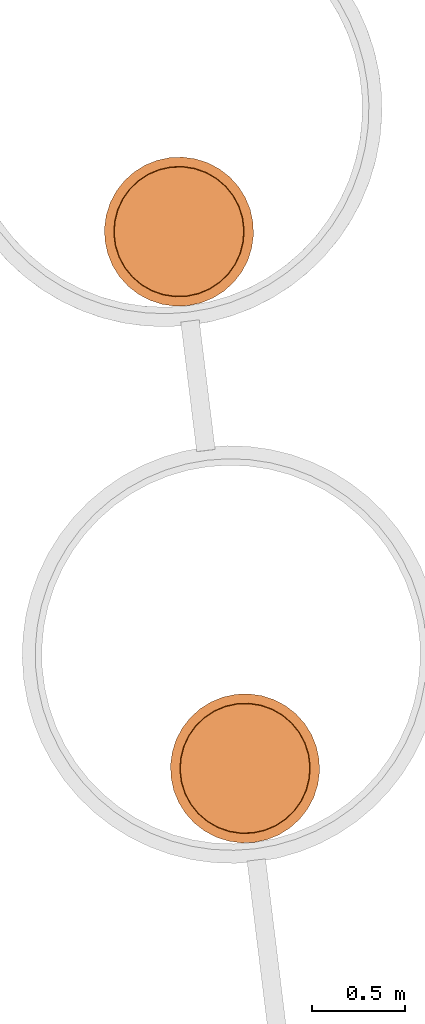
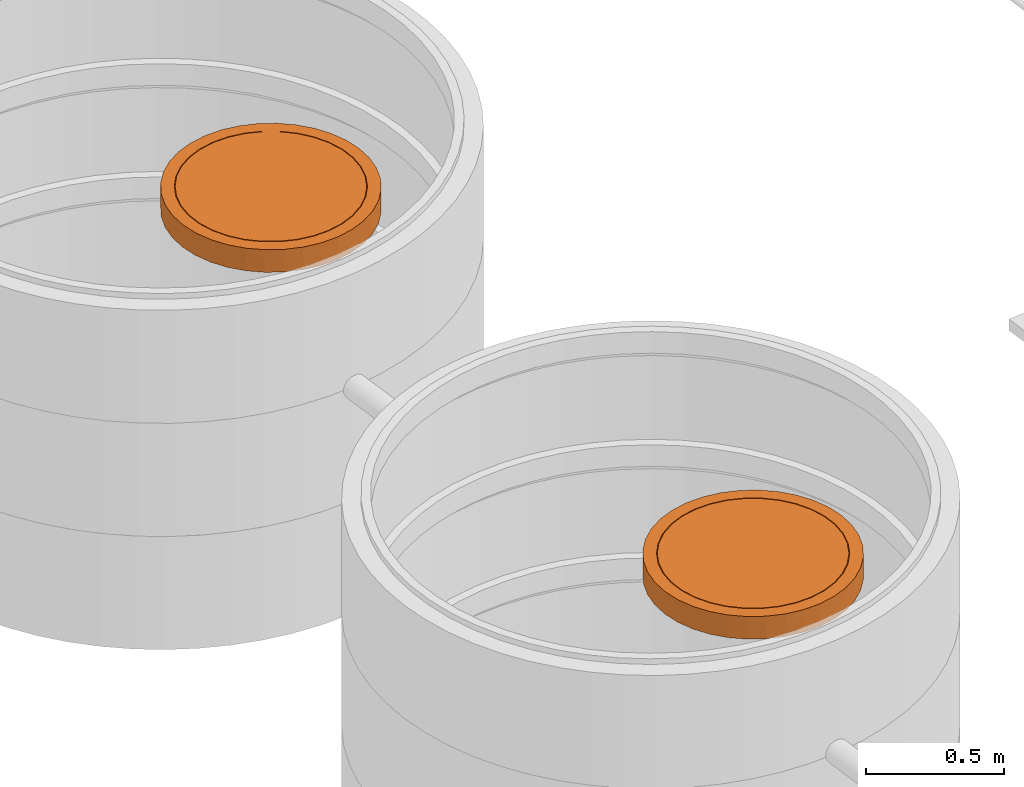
# One storey, part 97 of 97: 2 proxies.
"""IFC2X3 building model written with IfcOpenShell, lengths in centimetres."""

from ifc_helpers import new_model, entity, si_unit, converted_unit, derived_unit, direction, frame, origin, place, context, subcontext, project, spatial, faceted_brep, source, transform, mapped, material, type_object, type_shapes, element, save


model = new_model("IFC2X3")

# Units and contexts
model_context = context("Model", 3, precision=0.001, world=origin(), true_north=direction((6.12303176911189e-17, 1.0)))
body_context = subcontext(model_context, "Body", "Model", "MODEL_VIEW")
ifc_project = project(units=[si_unit("LENGTHUNIT", "METRE", prefix="CENTI"), si_unit("AREAUNIT", "SQUARE_METRE"), si_unit("VOLUMEUNIT", "CUBIC_METRE"), converted_unit("PLANEANGLEUNIT", "DEGREE", entity("IfcRatioMeasure", 0.0174532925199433), si_unit("PLANEANGLEUNIT", "RADIAN"), dimensions=[0, 0, 0, 0, 0, 0, 0]), si_unit("MASSUNIT", "GRAM", prefix="KILO"), derived_unit("MASSDENSITYUNIT", [(si_unit("MASSUNIT", "GRAM", prefix="KILO"), 1), (si_unit("LENGTHUNIT", "METRE"), -3)]), derived_unit("MOMENTOFINERTIAUNIT", [(si_unit("LENGTHUNIT", "METRE"), 4)]), si_unit("TIMEUNIT", "SECOND"), si_unit("FREQUENCYUNIT", "HERTZ"), si_unit("THERMODYNAMICTEMPERATUREUNIT", "DEGREE_CELSIUS"), derived_unit("THERMALTRANSMITTANCEUNIT", [(si_unit("MASSUNIT", "GRAM", prefix="KILO"), 1), (si_unit("THERMODYNAMICTEMPERATUREUNIT", "KELVIN"), -1), (si_unit("TIMEUNIT", "SECOND"), -3)]), derived_unit("VOLUMETRICFLOWRATEUNIT", [(si_unit("LENGTHUNIT", "METRE"), 3), (si_unit("TIMEUNIT", "SECOND"), -1)]), si_unit("ELECTRICCURRENTUNIT", "AMPERE"), si_unit("ELECTRICVOLTAGEUNIT", "VOLT"), si_unit("POWERUNIT", "WATT"), si_unit("FORCEUNIT", "NEWTON", prefix="KILO"), si_unit("ILLUMINANCEUNIT", "LUX"), si_unit("LUMINOUSFLUXUNIT", "LUMEN"), si_unit("LUMINOUSINTENSITYUNIT", "CANDELA"), derived_unit("USERDEFINED", [(si_unit("MASSUNIT", "GRAM", prefix="KILO"), -1), (si_unit("LENGTHUNIT", "METRE"), -2), (si_unit("TIMEUNIT", "SECOND"), 3), (si_unit("LUMINOUSFLUXUNIT", "LUMEN"), 1)]), derived_unit("LINEARVELOCITYUNIT", [(si_unit("LENGTHUNIT", "METRE"), 1), (si_unit("TIMEUNIT", "SECOND"), -1)]), si_unit("PRESSUREUNIT", "PASCAL"), derived_unit("USERDEFINED", [(si_unit("LENGTHUNIT", "METRE"), -2), (si_unit("MASSUNIT", "GRAM", prefix="KILO"), 1), (si_unit("TIMEUNIT", "SECOND"), -2)]), derived_unit("LINEARFORCEUNIT", [(si_unit("MASSUNIT", "GRAM", prefix="KILO"), 1), (si_unit("LENGTHUNIT", "METRE"), 1), (si_unit("TIMEUNIT", "SECOND"), -2), (si_unit("LENGTHUNIT", "METRE"), -1)]), derived_unit("PLANARFORCEUNIT", [(si_unit("MASSUNIT", "GRAM", prefix="KILO"), 1), (si_unit("LENGTHUNIT", "METRE"), 1), (si_unit("TIMEUNIT", "SECOND"), -2), (si_unit("LENGTHUNIT", "METRE"), -2)])], contexts=[model_context])

# Site, building, storey
site_placement = place(None, origin())
site = spatial("IfcSite", under=ifc_project, at=site_placement, Name="Default", CompositionType="ELEMENT")
building_placement = place(site_placement, origin())
building = spatial("IfcBuilding", under=site, at=building_placement, Name="HIDROSSANITÁRIO", CompositionType="ELEMENT")
storey_placement = place(building_placement, frame((0.0, 0.0, -260.0)))
storey = spatial("IfcBuildingStorey", under=building, at=storey_placement, Name="TÉRREO-HID", CompositionType="ELEMENT", Elevation=-260.0)

# Proxies
ifc_material = material(Name=".CONCRETO")
building_element_proxy_type = type_object("IfcBuildingElementProxyType", Name="Tampa Fossa_Rodrigo MEP:Tampa Fossa", PredefinedType="NOTDEFINED", material=ifc_material)
shared_shape = source(origin(), body_context, "Body", "Brep", [
    faceted_brep([(-59.3923101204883, 6.9459271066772, 10.0), (-59.3923101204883, 6.9459271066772, 0.0), (-60.0, 0.0, 0.0), (-60.0, 0.0, 10.0), (-57.5877048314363, 13.6808057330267, 10.0), (-57.5877048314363, 13.6808057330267, 0.0), (-54.6410161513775, 20.0, 10.0), (-54.6410161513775, 20.0, 0.0), (-50.6417777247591, 25.7115043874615, 0.0), (-50.6417777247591, 25.7115043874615, 10.0), (-45.7115043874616, 30.6417777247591, 10.0), (-45.7115043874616, 30.6417777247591, 0.0), (-40.0, 34.6410161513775, 10.0), (-33.6808057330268, 37.5877048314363, 10.0), (-33.6808057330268, 37.5877048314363, 0.0), (-40.0, 34.6410161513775, 0.0), (-26.9459271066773, 39.3923101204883, 0.0), (-26.9459271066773, 39.3923101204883, 10.0), (-20.0, 40.0, 0.0), (-20.0, 40.0, 10.0), (0.0, 34.6410161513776, 0.0), (-6.31919426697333, 37.5877048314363, 0.0), (-6.31919426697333, 37.5877048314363, 10.0), (0.0, 34.6410161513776, 10.0), (-13.0540728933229, 39.3923101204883, 0.0), (-13.0540728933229, 39.3923101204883, 10.0), (5.71150438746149, 30.6417777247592, 0.0), (5.71150438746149, 30.6417777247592, 10.0), (17.5877048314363, 13.6808057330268, 10.0), (19.3923101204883, 6.94592710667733, 10.0), (19.3923101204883, 6.94592710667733, 0.0), (17.5877048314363, 13.6808057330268, 0.0), (14.6410161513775, 20.0, 0.0), (10.641777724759, 25.7115043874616, 0.0), (10.641777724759, 25.7115043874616, 10.0), (14.6410161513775, 20.0, 10.0), (20.0, 0.0, 0.0), (20.0, 0.0, 10.0), (19.3923101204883, -6.94592710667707, 10.0), (19.3923101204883, -6.94592710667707, 0.0), (17.5877048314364, -13.6808057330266, 10.0), (17.5877048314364, -13.6808057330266, 0.0), (14.6410161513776, -20.0, 10.0), (14.6410161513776, -20.0, 0.0), (-6.3191942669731, -37.5877048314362, 0.0), (0.0, -34.6410161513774, 0.0), (0.0, -34.6410161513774, 10.0), (-6.3191942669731, -37.5877048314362, 10.0), (5.71150438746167, -30.641777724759, 10.0), (5.71150438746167, -30.641777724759, 0.0), (-13.0540728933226, -39.3923101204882, 10.0), (-13.0540728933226, -39.3923101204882, 0.0), (10.6417777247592, -25.7115043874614, 10.0), (10.6417777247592, -25.7115043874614, 0.0), (-20.0, -40.0, 10.0), (-20.0, -40.0, 0.0), (-40.0, -34.6410161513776, 0.0), (-33.6808057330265, -37.5877048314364, 0.0), (-33.6808057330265, -37.5877048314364, 10.0), (-40.0, -34.6410161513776, 10.0), (-26.945927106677, -39.3923101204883, 0.0), (-26.945927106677, -39.3923101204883, 10.0), (-45.7115043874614, -30.6417777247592, 0.0), (-45.7115043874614, -30.6417777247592, 10.0), (-57.5877048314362, -13.680805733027, 10.0), (-59.3923101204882, -6.94592710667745, 10.0), (-59.3923101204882, -6.94592710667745, 0.0), (-57.5877048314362, -13.680805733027, 0.0), (-54.6410161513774, -20.0, 0.0), (-50.6417777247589, -25.7115043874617, 0.0), (-50.6417777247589, -25.7115043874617, 10.0), (-54.6410161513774, -20.0, 10.0), (9.42355841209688, 5.85270966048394, 0.0), (10.0, 0.0, 0.0), (7.71638597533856, 11.4805029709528, 0.0), (4.9440883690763, 16.6671069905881, 0.0), (1.21320343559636, 21.2132034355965, 0.0), (-3.332893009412, 24.9440883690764, 0.0), (-8.51949702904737, 27.7163859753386, 0.0), (-14.1472903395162, 29.4235584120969, 0.0), (-20.0, 30.0, 0.0), (-25.8527096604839, 29.4235584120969, 0.0), (-31.4805029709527, 27.7163859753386, 0.0), (-36.6671069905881, 24.9440883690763, 0.0), (-41.2132034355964, 21.2132034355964, 0.0), (-44.9440883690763, 16.667106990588, 0.0), (-47.7163859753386, 11.4805029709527, 0.0), (-49.4235584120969, 5.85270966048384, 0.0), (-50.0, 0.0, 0.0), (-49.4235584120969, -5.85270966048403, 0.0), (-47.7163859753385, -11.4805029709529, 0.0), (-44.9440883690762, -16.6671069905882, 0.0), (-41.2132034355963, -21.2132034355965, 0.0), (-36.6671069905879, -24.9440883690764, 0.0), (-31.4805029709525, -27.7163859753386, 0.0), (-25.8527096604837, -29.4235584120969, 0.0), (-20.0, -30.0, 0.0), (-14.147290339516, -29.4235584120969, 0.0), (-8.51949702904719, -27.7163859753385, 0.0), (-3.33289300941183, -24.9440883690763, 0.0), (1.2132034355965, -21.2132034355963, 0.0), (4.94408836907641, -16.667106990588, 0.0), (7.71638597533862, -11.4805029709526, 0.0), (9.42355841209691, -5.85270966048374, 0.0), (-50.0, 0.0, 5.0), (-49.4235584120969, 5.85270966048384, 5.0), (-47.7163859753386, 11.4805029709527, 5.0), (-44.9440883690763, 16.667106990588, 5.0), (-36.6671069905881, 24.9440883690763, 5.0), (-41.2132034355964, 21.2132034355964, 5.0), (-31.4805029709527, 27.7163859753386, 5.0), (-25.8527096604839, 29.4235584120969, 5.0), (-20.0, 30.0, 5.0), (-3.332893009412, 24.9440883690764, 5.0), (-8.51949702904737, 27.7163859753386, 5.0), (-14.1472903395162, 29.4235584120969, 5.0), (1.21320343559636, 21.2132034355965, 5.0), (9.42355841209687, 5.85270966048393, 5.0), (7.71638597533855, 11.4805029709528, 5.0), (4.94408836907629, 16.6671069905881, 5.0), (10.0, 0.0, 5.0), (9.42355841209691, -5.85270966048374, 5.0), (7.71638597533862, -11.4805029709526, 5.0), (4.9440883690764, -16.667106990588, 5.0), (-3.33289300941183, -24.9440883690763, 5.0), (1.2132034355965, -21.2132034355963, 5.0), (-8.5194970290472, -27.7163859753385, 5.0), (-14.147290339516, -29.4235584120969, 5.0), (-20.0, -30.0, 5.0), (-36.667106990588, -24.9440883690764, 5.0), (-31.4805029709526, -27.7163859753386, 5.0), (-25.8527096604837, -29.4235584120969, 5.0), (-41.2132034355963, -21.2132034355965, 5.0), (-49.4235584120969, -5.85270966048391, 5.0), (-47.7163859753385, -11.4805029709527, 5.0), (-44.9440883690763, -16.6671069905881, 5.0), (14.4040584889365, 6.43123312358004, 5.0), (15.0, 0.0, 5.0), (12.6365280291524, 12.6434583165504, 5.0), (9.75759975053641, 18.4251257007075, 5.0), (5.86531210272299, 23.5793475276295, 5.0), (1.09221227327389, 27.9306029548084, 5.0), (-4.39915754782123, 31.3307151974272, 5.0), (-10.4217953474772, 33.6638975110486, 5.0), (-16.7706074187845, 34.8506961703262, 5.0), (-23.2293925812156, 34.8506961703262, 5.0), (-29.5782046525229, 33.6638975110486, 5.0), (-35.6008424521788, 31.3307151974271, 5.0), (-41.092212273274, 27.9306029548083, 5.0), (-45.865312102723, 23.5793475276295, 5.0), (-49.7575997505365, 18.4251257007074, 5.0), (-52.6365280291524, 12.6434583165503, 5.0), (-54.4040584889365, 6.43123312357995, 5.0), (-55.0, 0.0, 5.0), (-54.4040584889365, -6.43123312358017, 5.0), (-52.6365280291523, -12.6434583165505, 5.0), (-49.7575997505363, -18.4251257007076, 5.0), (-45.8653121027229, -23.5793475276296, 5.0), (-41.0922122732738, -27.9306029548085, 5.0), (-35.6008424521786, -31.3307151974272, 5.0), (-29.5782046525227, -33.6638975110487, 5.0), (-23.2293925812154, -34.8506961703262, 5.0), (-16.7706074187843, -34.8506961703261, 5.0), (-10.4217953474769, -33.6638975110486, 5.0), (-4.39915754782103, -31.3307151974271, 5.0), (1.09221227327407, -27.9306029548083, 5.0), (5.86531210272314, -23.5793475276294, 5.0), (9.75759975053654, -18.4251257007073, 5.0), (12.6365280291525, -12.6434583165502, 5.0), (14.4040584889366, -6.43123312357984, 5.0), (-55.0, 0.0, 10.0), (-54.4040584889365, 6.43123312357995, 10.0), (-52.6365280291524, 12.6434583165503, 10.0), (-49.7575997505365, 18.4251257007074, 10.0), (-41.092212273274, 27.9306029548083, 10.0), (-45.865312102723, 23.5793475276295, 10.0), (-23.2293925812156, 34.8506961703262, 10.0), (-29.5782046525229, 33.6638975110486, 10.0), (-35.6008424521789, 31.3307151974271, 10.0), (-16.7706074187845, 34.8506961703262, 10.0), (-4.39915754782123, 31.3307151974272, 10.0), (-10.4217953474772, 33.6638975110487, 10.0), (1.0922122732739, 27.9306029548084, 10.0), (14.4040584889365, 6.43123312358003, 10.0), (12.6365280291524, 12.6434583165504, 10.0), (9.75759975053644, 18.4251257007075, 10.0), (5.865312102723, 23.5793475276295, 10.0), (15.0, 0.0, 10.0), (14.4040584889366, -6.43123312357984, 10.0), (12.6365280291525, -12.6434583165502, 10.0), (9.75759975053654, -18.4251257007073, 10.0), (5.86531210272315, -23.5793475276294, 10.0), (-16.7706074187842, -34.8506961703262, 10.0), (-10.4217953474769, -33.6638975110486, 10.0), (-4.39915754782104, -31.3307151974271, 10.0), (1.09221227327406, -27.9306029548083, 10.0), (-23.2293925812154, -34.8506961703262, 10.0), (-35.6008424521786, -31.3307151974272, 10.0), (-29.5782046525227, -33.6638975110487, 10.0), (-41.0922122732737, -27.9306029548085, 10.0), (-54.4040584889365, -6.43123312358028, 10.0), (-52.6365280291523, -12.6434583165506, 10.0), (-49.7575997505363, -18.4251257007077, 10.0), (-45.8653121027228, -23.5793475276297, 10.0)], [[[0, 1, 2, 3]], [[1, 0, 4, 5]], [[4, 6, 7, 5]], [[8, 9, 10, 11]], [[12, 13, 14, 15]], [[10, 12, 15, 11]], [[6, 9, 8, 7]], [[16, 14, 13, 17]], [[18, 16, 17, 19]], [[20, 21, 22, 23]], [[21, 24, 25, 22]], [[26, 20, 23, 27]], [[28, 29, 30, 31]], [[32, 33, 34, 35]], [[31, 32, 35, 28]], [[27, 34, 33, 26]], [[36, 30, 29, 37]], [[19, 25, 24, 18]], [[38, 39, 36, 37]], [[39, 38, 40, 41]], [[40, 42, 43, 41]], [[44, 45, 46, 47]], [[48, 46, 45, 49]], [[47, 50, 51, 44]], [[42, 52, 53, 43]], [[53, 52, 48, 49]], [[50, 54, 55, 51]], [[56, 57, 58, 59]], [[57, 60, 61, 58]], [[62, 56, 59, 63]], [[64, 65, 66, 67]], [[68, 69, 70, 71]], [[67, 68, 71, 64]], [[63, 70, 69, 62]], [[2, 66, 65, 3]], [[54, 61, 60, 55]], [[72, 31, 30]], [[73, 72, 30]], [[72, 74, 31]], [[74, 32, 31]], [[74, 75, 32]], [[32, 75, 33]], [[33, 75, 76]], [[76, 26, 33]], [[26, 76, 77]], [[20, 26, 77]], [[77, 78, 20]], [[78, 21, 20]], [[78, 79, 21]], [[79, 24, 21]], [[24, 79, 80]], [[24, 80, 18]], [[18, 80, 16]], [[16, 80, 81]], [[16, 81, 14]], [[81, 82, 14]], [[15, 14, 82]], [[15, 82, 83]], [[15, 83, 11]], [[84, 11, 83]], [[11, 84, 8]], [[8, 84, 85]], [[8, 85, 7]], [[86, 7, 85]], [[5, 7, 86]], [[86, 87, 5]], [[87, 1, 5]], [[87, 88, 1]], [[88, 2, 1]], [[88, 66, 2]], [[88, 89, 66]], [[66, 89, 67]], [[89, 90, 67]], [[67, 90, 68]], [[91, 68, 90]], [[69, 68, 91]], [[92, 69, 91]], [[92, 62, 69]], [[92, 93, 62]], [[62, 93, 56]], [[56, 93, 94]], [[56, 94, 57]], [[57, 94, 95]], [[95, 60, 57]], [[60, 95, 96]], [[60, 96, 55]], [[51, 55, 96]], [[96, 97, 51]], [[44, 51, 97]], [[97, 98, 44]], [[44, 98, 45]], [[45, 98, 99]], [[49, 45, 99]], [[100, 49, 99]], [[49, 100, 53]], [[53, 100, 101]], [[101, 43, 53]], [[101, 102, 43]], [[102, 41, 43]], [[102, 103, 41]], [[39, 41, 103]], [[103, 73, 39]], [[73, 36, 39]], [[30, 36, 73]], [[104, 88, 87, 105]], [[106, 105, 87, 86]], [[86, 85, 107, 106]], [[108, 109, 84, 83]], [[110, 108, 83, 82]], [[85, 84, 109, 107]], [[110, 82, 81, 111]], [[81, 80, 112, 111]], [[77, 113, 114, 78]], [[115, 79, 78, 114]], [[113, 77, 76, 116]], [[72, 117, 118, 74]], [[118, 119, 75, 74]], [[116, 76, 75, 119]], [[120, 117, 72, 73]], [[79, 115, 112, 80]], [[120, 73, 103, 121]], [[122, 121, 103, 102]], [[102, 101, 123, 122]], [[124, 125, 100, 99]], [[126, 124, 99, 98]], [[101, 100, 125, 123]], [[126, 98, 97, 127]], [[97, 96, 128, 127]], [[93, 129, 130, 94]], [[131, 95, 94, 130]], [[129, 93, 92, 132]], [[89, 133, 134, 90]], [[135, 91, 90, 134]], [[135, 132, 92, 91]], [[104, 133, 89, 88]], [[95, 131, 128, 96]], [[136, 120, 137]], [[117, 120, 136]], [[136, 138, 117]], [[117, 138, 118]], [[138, 139, 118]], [[118, 139, 119]], [[140, 119, 139]], [[119, 140, 116]], [[141, 116, 140]], [[116, 141, 113]], [[142, 113, 141]], [[113, 142, 114]], [[142, 143, 114]], [[143, 115, 114]], [[144, 115, 143]], [[144, 112, 115]], [[144, 145, 112]], [[145, 111, 112]], [[111, 145, 146]], [[146, 110, 111]], [[146, 147, 110]], [[110, 147, 108]], [[148, 108, 147]], [[108, 148, 109]], [[149, 109, 148]], [[107, 109, 149]], [[150, 107, 149]], [[107, 150, 106]], [[106, 150, 151]], [[151, 105, 106]], [[151, 152, 105]], [[152, 104, 105]], [[152, 153, 104]], [[153, 154, 104]], [[154, 133, 104]], [[155, 133, 154]], [[155, 134, 133]], [[156, 134, 155]], [[134, 156, 135]], [[135, 156, 157]], [[135, 157, 132]], [[157, 158, 132]], [[158, 129, 132]], [[129, 158, 159]], [[130, 129, 159]], [[160, 130, 159]], [[131, 130, 160]], [[131, 160, 161]], [[161, 128, 131]], [[162, 128, 161]], [[127, 128, 162]], [[127, 162, 163]], [[163, 126, 127]], [[164, 126, 163]], [[124, 126, 164]], [[124, 164, 165]], [[124, 165, 125]], [[166, 125, 165]], [[125, 166, 123]], [[167, 123, 166]], [[167, 122, 123]], [[167, 168, 122]], [[122, 168, 121]], [[121, 168, 169]], [[121, 169, 120]], [[169, 137, 120]], [[170, 153, 152, 171]], [[172, 171, 152, 151]], [[151, 150, 173, 172]], [[149, 148, 174, 175]], [[146, 145, 176, 177]], [[174, 148, 147, 178]], [[173, 150, 149, 175]], [[177, 178, 147, 146]], [[145, 144, 179, 176]], [[180, 181, 143, 142]], [[181, 179, 144, 143]], [[182, 180, 142, 141]], [[136, 183, 184, 138]], [[185, 186, 140, 139]], [[185, 139, 138, 184]], [[140, 186, 182, 141]], [[183, 136, 137, 187]], [[187, 137, 169, 188]], [[169, 168, 189, 188]], [[168, 167, 190, 189]], [[190, 167, 166, 191]], [[162, 192, 193, 163]], [[164, 163, 193, 194]], [[195, 191, 166, 165]], [[194, 195, 165, 164]], [[162, 161, 196, 192]], [[159, 197, 198, 160]], [[196, 161, 160, 198]], [[197, 159, 158, 199]], [[154, 200, 201, 155]], [[202, 203, 157, 156]], [[201, 202, 156, 155]], [[203, 199, 158, 157]], [[170, 200, 154, 153]], [[29, 187, 37]], [[183, 187, 29]], [[29, 28, 183]], [[183, 28, 184]], [[28, 35, 184]], [[184, 35, 185]], [[185, 35, 34]], [[186, 185, 34]], [[34, 27, 186]], [[182, 186, 27]], [[182, 27, 23]], [[23, 180, 182]], [[23, 22, 180]], [[22, 181, 180]], [[22, 25, 181]], [[179, 181, 25]], [[19, 179, 25]], [[179, 19, 176]], [[19, 17, 176]], [[17, 177, 176]], [[13, 177, 17]], [[13, 178, 177]], [[13, 12, 178]], [[178, 12, 174]], [[10, 174, 12]], [[174, 10, 175]], [[9, 175, 10]], [[173, 175, 9]], [[6, 173, 9]], [[173, 6, 172]], [[172, 6, 4]], [[4, 171, 172]], [[4, 0, 171]], [[0, 170, 171]], [[0, 3, 170]], [[3, 65, 170]], [[65, 200, 170]], [[64, 200, 65]], [[201, 200, 64]], [[71, 201, 64]], [[202, 201, 71]], [[70, 202, 71]], [[202, 70, 203]], [[63, 203, 70]], [[203, 63, 199]], [[63, 59, 199]], [[197, 199, 59]], [[197, 59, 58]], [[198, 197, 58]], [[198, 58, 61]], [[61, 196, 198]], [[196, 61, 54]], [[192, 196, 54]], [[192, 54, 50]], [[50, 193, 192]], [[193, 50, 47]], [[47, 194, 193]], [[46, 194, 47]], [[195, 194, 46]], [[195, 46, 48]], [[195, 48, 191]], [[52, 191, 48]], [[191, 52, 190]], [[42, 190, 52]], [[42, 189, 190]], [[42, 40, 189]], [[189, 40, 188]], [[188, 40, 38]], [[188, 38, 187]], [[38, 37, 187]]]),
    faceted_brep([(-20.0, 0.0, 10.0), (12.3567863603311, 12.5350858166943, 10.0), (9.50253460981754, 18.2671960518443, 10.0), (5.6436094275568, 23.3772388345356, 10.0), (14.1091665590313, 6.37610826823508, 10.0), (0.911421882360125, 27.6911977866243, 10.0), (-4.53287905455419, 31.0621662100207, 10.0), (-10.5038942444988, 33.3753498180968, 10.0), (-16.7982879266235, 34.5519759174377, 10.0), (14.7, 0.0, 10.0), (-23.2017120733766, 34.5519759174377, 10.0), (-29.4961057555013, 33.3753498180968, 10.0), (-35.4671209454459, 31.0621662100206, 10.0), (-40.9114218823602, 27.6911977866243, 10.0), (-45.6436094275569, 23.3772388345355, 10.0), (-49.5025346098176, 18.2671960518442, 10.0), (-52.3567863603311, 12.5350858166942, 10.0), (-54.1091665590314, 6.37610826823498, 10.0), (-54.7, 0.0, 10.0), (14.1091665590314, -6.37610826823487, 10.0), (12.3567863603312, -12.5350858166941, 10.0), (9.50253460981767, -18.2671960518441, 10.0), (5.64360942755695, -23.3772388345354, 10.0), (0.911421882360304, -27.6911977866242, 10.0), (-4.53287905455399, -31.0621662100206, 10.0), (-10.5038942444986, -33.3753498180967, 10.0), (-16.7982879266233, -34.5519759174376, 10.0), (-54.1091665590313, -6.3761082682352, 10.0), (-52.356786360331, -12.5350858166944, 10.0), (-49.5025346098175, -18.2671960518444, 10.0), (-45.6436094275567, -23.3772388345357, 10.0), (-40.91142188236, -27.6911977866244, 10.0), (-35.4671209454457, -31.0621662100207, 10.0), (-29.4961057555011, -33.3753498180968, 10.0), (-23.2017120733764, -34.5519759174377, 10.0), (-54.1091665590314, 6.37610826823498, 5.29999999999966), (-54.7, 0.0, 5.29999999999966), (-52.3567863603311, 12.5350858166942, 5.29999999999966), (-49.5025346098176, 18.2671960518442, 5.29999999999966), (-40.9114218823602, 27.6911977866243, 5.29999999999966), (-45.6436094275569, 23.3772388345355, 5.29999999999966), (-23.2017120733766, 34.5519759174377, 5.29999999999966), (-29.4961057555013, 33.3753498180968, 5.29999999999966), (-35.4671209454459, 31.0621662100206, 5.29999999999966), (-16.7982879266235, 34.5519759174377, 5.29999999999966), (-4.53287905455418, 31.0621662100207, 5.29999999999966), (-10.5038942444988, 33.3753498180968, 5.29999999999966), (0.911421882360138, 27.6911977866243, 5.29999999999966), (14.1091665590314, 6.37610826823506, 5.29999999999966), (12.3567863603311, 12.5350858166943, 5.29999999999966), (9.50253460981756, 18.2671960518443, 5.29999999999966), (5.64360942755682, 23.3772388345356, 5.29999999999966), (14.7, 0.0, 5.29999999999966), (14.1091665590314, -6.37610826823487, 5.29999999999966), (12.3567863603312, -12.5350858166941, 5.29999999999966), (9.50253460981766, -18.2671960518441, 5.29999999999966), (5.64360942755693, -23.3772388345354, 5.29999999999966), (-16.7982879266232, -34.5519759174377, 5.29999999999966), (-10.5038942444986, -33.3753498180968, 5.29999999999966), (-4.53287905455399, -31.0621662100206, 5.29999999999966), (0.91142188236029, -27.6911977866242, 5.29999999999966), (-23.2017120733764, -34.5519759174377, 5.29999999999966), (-35.4671209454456, -31.0621662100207, 5.29999999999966), (-29.496105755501, -33.3753498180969, 5.29999999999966), (-40.91142188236, -27.6911977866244, 5.29999999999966), (-54.1091665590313, -6.37610826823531, 5.29999999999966), (-52.356786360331, -12.5350858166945, 5.29999999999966), (-49.5025346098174, -18.2671960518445, 5.29999999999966), (-45.6436094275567, -23.3772388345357, 5.29999999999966), (-20.0, 0.0, 5.29999999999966)], [[[0, 1, 2]], [[3, 0, 2]], [[4, 1, 0]], [[0, 3, 5]], [[0, 5, 6]], [[7, 0, 6]], [[8, 0, 7]], [[9, 4, 0]], [[8, 10, 0]], [[11, 0, 10]], [[0, 11, 12]], [[12, 13, 0]], [[14, 0, 13]], [[14, 15, 0]], [[16, 0, 15]], [[16, 17, 0]], [[18, 0, 17]], [[0, 19, 9]], [[0, 20, 19]], [[20, 0, 21]], [[22, 21, 0]], [[23, 22, 0]], [[24, 23, 0]], [[25, 24, 0]], [[0, 26, 25]], [[0, 18, 27]], [[28, 0, 27]], [[28, 29, 0]], [[30, 0, 29]], [[0, 30, 31]], [[31, 32, 0]], [[0, 32, 33]], [[33, 34, 0]], [[26, 0, 34]], [[17, 35, 36, 18]], [[35, 17, 16, 37]], [[16, 15, 38, 37]], [[14, 13, 39, 40]], [[11, 10, 41, 42]], [[39, 13, 12, 43]], [[15, 14, 40, 38]], [[43, 12, 11, 42]], [[10, 8, 44, 41]], [[45, 46, 7, 6]], [[46, 44, 8, 7]], [[47, 45, 6, 5]], [[48, 49, 1, 4]], [[2, 50, 51, 3]], [[49, 50, 2, 1]], [[3, 51, 47, 5]], [[9, 52, 48, 4]], [[19, 53, 52, 9]], [[19, 20, 54, 53]], [[20, 21, 55, 54]], [[22, 56, 55, 21]], [[25, 26, 57, 58]], [[24, 25, 58, 59]], [[23, 24, 59, 60]], [[56, 22, 23, 60]], [[26, 34, 61, 57]], [[62, 63, 33, 32]], [[33, 63, 61, 34]], [[31, 64, 62, 32]], [[28, 27, 65, 66]], [[67, 68, 30, 29]], [[28, 66, 67, 29]], [[68, 64, 31, 30]], [[36, 65, 27, 18]], [[50, 49, 69]], [[50, 69, 51]], [[69, 49, 48]], [[69, 48, 52]], [[52, 53, 69]], [[53, 54, 69]], [[55, 69, 54]], [[69, 55, 56]], [[69, 56, 60]], [[69, 60, 59]], [[69, 59, 58]], [[58, 57, 69]], [[61, 69, 57]], [[69, 61, 63]], [[63, 62, 69]], [[69, 62, 64]], [[64, 68, 69]], [[67, 69, 68]], [[69, 67, 66]], [[65, 69, 66]], [[65, 36, 69]], [[35, 69, 36]], [[69, 35, 37]], [[38, 69, 37]], [[69, 38, 40]], [[39, 69, 40]], [[69, 39, 43]], [[43, 42, 69]], [[41, 69, 42]], [[69, 41, 44]], [[46, 69, 44]], [[45, 69, 46]], [[45, 47, 69]], [[47, 51, 69]]]),
])
type_shapes(building_element_proxy_type, [shared_shape])
for number, where, z_axis, x_axis, name in (
    (1, (478.935541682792, 3353.24563606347, -9.50000000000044), (0.0, 0.0, 1.0), (-0.122152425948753, 0.992511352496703, 0.0), "Tampa Fossa_Rodrigo MEP:Tampa Fossa"),
    (2, (514.360704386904, 3065.4095503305, -9.50000000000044), (0.0, 0.0, 1.0), (-0.122152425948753, 0.992511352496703, 0.0), "Tampa Fossa_Rodrigo MEP:Tampa Fossa"),
):
    element("IfcBuildingElementProxy", number, at=place(storey_placement, frame(where, z_axis=z_axis, x_axis=x_axis)), inside=storey, type_object=building_element_proxy_type, material=ifc_material, Name=name, ObjectType="Tampa Fossa_Rodrigo MEP:Tampa Fossa", context=body_context, shape_type="MappedRepresentation", body=[
        mapped(shared_shape, transform((0.0, 0.0, 0.0), scale=1.0)),
    ])

save(model, "model.ifc")
